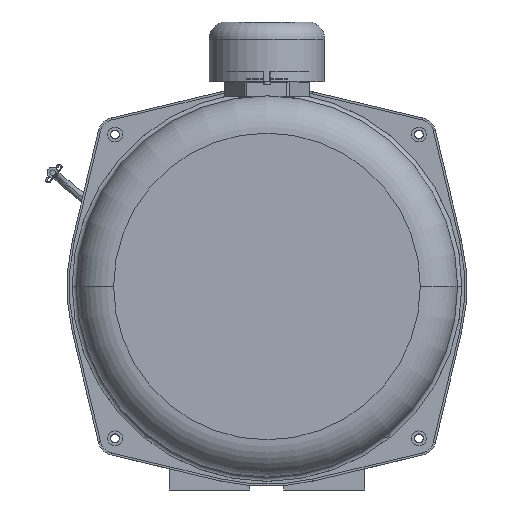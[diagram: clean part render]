
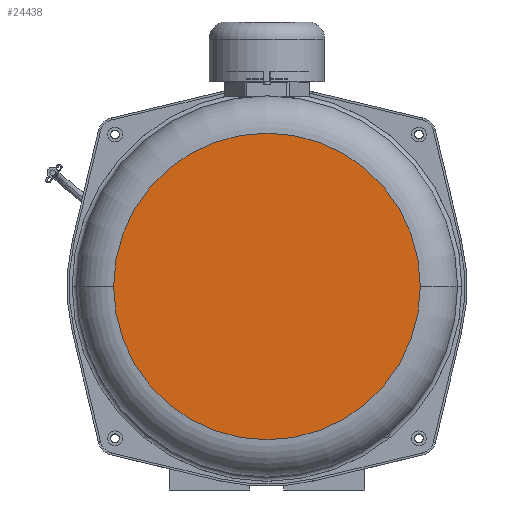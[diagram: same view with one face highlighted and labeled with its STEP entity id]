
A CAD part, front view. The second image highlights one B-rep face of the part: STEP entity #24438.
In plain terms, the highlighted planar face has unit normal (0, -1, 0).
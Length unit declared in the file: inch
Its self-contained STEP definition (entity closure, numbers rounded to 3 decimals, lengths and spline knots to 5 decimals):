
#23492=CARTESIAN_POINT('',(0.,-11.952,0.));
#23493=DIRECTION('',(0.,-1.,0.));
#23494=DIRECTION('',(1.,0.,0.));
#23495=AXIS2_PLACEMENT_3D('',#23492,#23493,#23494);
#23507=CARTESIAN_POINT('',(0.,-11.952,0.));
#23508=DIRECTION('',(0.,1.,0.));
#23509=DIRECTION('',(1.,0.,0.));
#23510=AXIS2_PLACEMENT_3D('',#23507,#23508,#23509);
#23815=CARTESIAN_POINT('',(2.2525,-11.952,0.));
#23817=VERTEX_POINT('',#23815);
#23823=CARTESIAN_POINT('',(-2.2525,-11.952,0.));
#23825=VERTEX_POINT('',#23823);
#24429=CARTESIAN_POINT('',(0.,-11.952,0.));
#24430=DIRECTION('',(0.,-1.,0.));
#24431=DIRECTION('',(-1.,0.,0.));
#24432=AXIS2_PLACEMENT_3D('',#24429,#24430,#24431);
#24433=PLANE('',#24432);
#24434=ORIENTED_EDGE('',*,*,#24424,.T.);
#24435=ORIENTED_EDGE('',*,*,#24408,.F.);
#24436=EDGE_LOOP('',(#24434,#24435));
#24437=FACE_OUTER_BOUND('',#24436,.F.);
#24438=ADVANCED_FACE('',(#24437),#24433,.T.);
#23496=CIRCLE('',#23495,2.2525);
#23511=CIRCLE('',#23510,2.2525);
#24408=EDGE_CURVE('',#23817,#23825,#23496,.T.);
#24424=EDGE_CURVE('',#23817,#23825,#23511,.T.);
